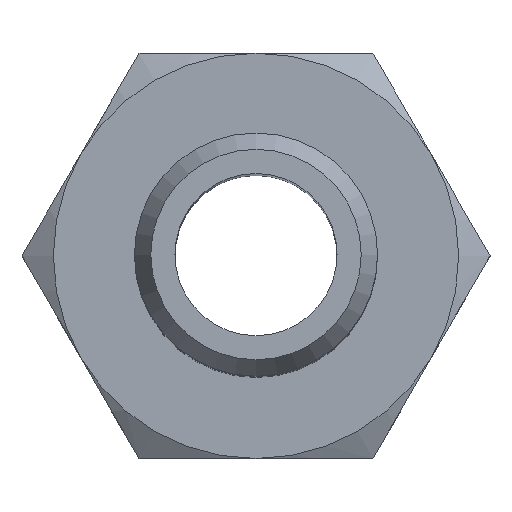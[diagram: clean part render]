
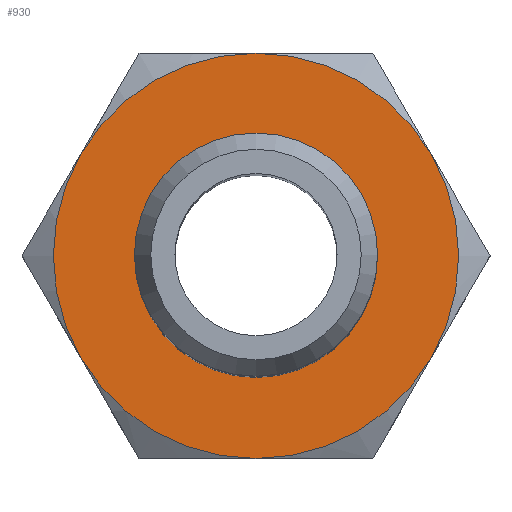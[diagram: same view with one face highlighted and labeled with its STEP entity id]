
A CAD part, top view. The second image highlights one B-rep face of the part: STEP entity #930.
In plain terms, the highlighted planar face has unit normal (0, 0, 1).
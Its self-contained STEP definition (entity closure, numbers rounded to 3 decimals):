
#930=ADVANCED_FACE('', (#940,#950), #960, .T.);
#2500=AXIS2_PLACEMENT_3D('Ax2Pl3d', #2510, #2520, #2530);
#2700=AXIS2_PLACEMENT_3D('Ax2Pl3d', #2710, #2720, #2730);
#3100=AXIS2_PLACEMENT_3D('Ax2Pl3d', #3110, #3120, #3130);
#3380=AXIS2_PLACEMENT_3D('Ax2Pl3d', #3390, #3400, #3410);
#3460=AXIS2_PLACEMENT_3D('Ax2Pl3d', #3470, #3480, #3490);
#3500=AXIS2_PLACEMENT_3D('Ax2Pl3d', #3510, #3520, #3530);
#3540=AXIS2_PLACEMENT_3D('Ax2Pl3d', #3550, #3560, #3570);
#3580=AXIS2_PLACEMENT_3D('Ax2Pl3d', #3590, #3600, #3610);
#6510=CARTESIAN_POINT('', (18.799,10.8,15.495));
#6580=CARTESIAN_POINT('', (23.129,13.3,15.495));
#2510=CARTESIAN_POINT('HicPkt', (23.129,8.3,
15.495));
#6670=CARTESIAN_POINT('', (18.799,5.8,15.495));
#2710=CARTESIAN_POINT('HicPkt', (23.129,8.3,
15.495));
#6720=CARTESIAN_POINT('', (23.129,3.3,15.495));
#3110=CARTESIAN_POINT('HicPkt', (23.129,8.3,
15.495));
#6760=CARTESIAN_POINT('', (27.459,10.8,15.495));
#6800=CARTESIAN_POINT('', (27.459,5.8,15.495));
#3390=CARTESIAN_POINT('HicPkt', (23.129,8.3,
15.495));
#3470=CARTESIAN_POINT('HicPkt', (23.129,8.3,
15.495));
#3510=CARTESIAN_POINT('HicPkt', (23.129,3.3,
15.495));
#3550=CARTESIAN_POINT('HicPkt', (23.129,8.3,
15.495));
#3590=CARTESIAN_POINT('HicPkt', (23.129,8.3,
15.495));
#6810=CARTESIAN_POINT('', (23.129,11.3,15.495));
#7060=CIRCLE('Circle', #2500, 5.);
#7080=CIRCLE('Circle', #2700, 5.);
#7140=CIRCLE('Circle', #3100, 5.);
#7150=CIRCLE('Circle', #3380, 5.);
#7160=CIRCLE('Circle', #3460, 5.);
#7170=CIRCLE('Circle', #3540, 5.);
#7180=CIRCLE('Circle', #3580, 3.);
#2520=DIRECTION('Axis', (0.,0.,-1.));
#2530=DIRECTION('RefDirection', (-1.,-0.,0.));
#2720=DIRECTION('Axis', (0.,0.,-1.));
#2730=DIRECTION('RefDirection', (-1.,-0.,0.));
#3120=DIRECTION('Axis', (0.,0.,-1.));
#3130=DIRECTION('RefDirection', (-1.,-0.,0.));
#3400=DIRECTION('Axis', (0.,0.,-1.));
#3410=DIRECTION('RefDirection', (-1.,-0.,0.));
#3480=DIRECTION('Axis', (0.,0.,-1.));
#3490=DIRECTION('RefDirection', (-1.,-0.,0.));
#3520=DIRECTION('Axis', (0.,0.,1.));
#3530=DIRECTION('RefDirection', (1.,0.,-0.));
#3560=DIRECTION('Axis', (0.,0.,-1.));
#3570=DIRECTION('RefDirection', (-1.,-0.,0.));
#3600=DIRECTION('Axis', (0.,0.,1.));
#3610=DIRECTION('RefDirection', (1.,0.,-0.));
#9910=EDGE_CURVE('', #9680, #9810, #7060, .T.);
#10030=EDGE_CURVE('', #10000, #9680, #7080, .T.);
#10170=EDGE_CURVE('', #10160, #10000, #7140, .T.);
#10370=EDGE_CURVE('', #10260, #10350, #7150, .T.);
#10380=EDGE_CURVE('', #9810, #10260, #7160, .T.);
#10390=EDGE_CURVE('', #10350, #10160, #7170, .T.);
#10400=EDGE_CURVE('', #10410, #10410, #7180, .T.);
#11970=EDGE_LOOP('Edge_loop', (#11980,#11990,#12000,#12010,#12020,
#12030));
#12040=EDGE_LOOP('Edge_loop', (#12050));
#950=FACE_BOUND('', #12040, .T.);
#940=FACE_OUTER_BOUND('Face_outer_bound', #11970, .T.);
#11980=ORIENTED_EDGE('', *, *, #10170, .F.);
#11990=ORIENTED_EDGE('', *, *, #10390, .F.);
#12000=ORIENTED_EDGE('', *, *, #10370, .F.);
#12010=ORIENTED_EDGE('', *, *, #10380, .F.);
#12020=ORIENTED_EDGE('', *, *, #9910, .F.);
#12030=ORIENTED_EDGE('', *, *, #10030, .F.);
#12050=ORIENTED_EDGE('', *, *, #10400, .F.);
#960=PLANE('Plane', #3500);
#9680=VERTEX_POINT('', #6510);
#9810=VERTEX_POINT('', #6580);
#10000=VERTEX_POINT('', #6670);
#10160=VERTEX_POINT('', #6720);
#10260=VERTEX_POINT('', #6760);
#10350=VERTEX_POINT('', #6800);
#10410=VERTEX_POINT('', #6810);
